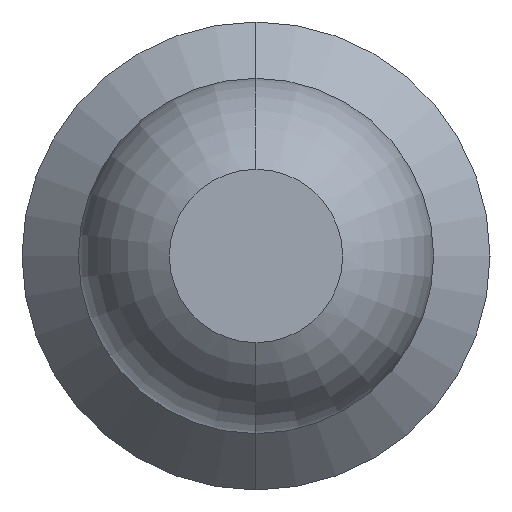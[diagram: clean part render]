
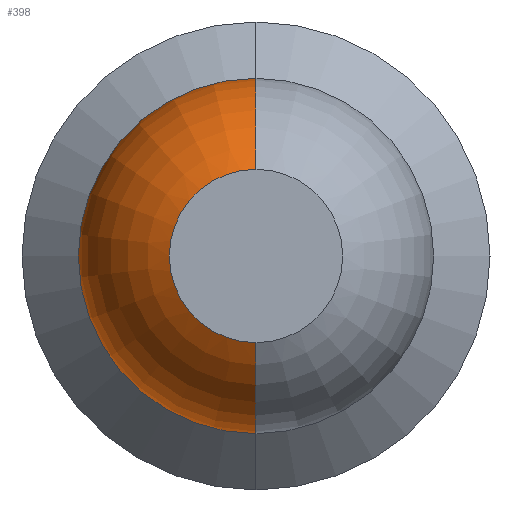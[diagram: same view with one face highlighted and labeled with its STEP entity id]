
A CAD part, left-side view. The second image highlights one B-rep face of the part: STEP entity #398.
In plain terms, the highlighted toroidal (fillet/blend) face has major radius 0.006 mm and minor radius 0.254 mm.
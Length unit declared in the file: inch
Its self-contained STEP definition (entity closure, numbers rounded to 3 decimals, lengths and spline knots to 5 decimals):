
#39 = CARTESIAN_POINT ( 'NONE',  ( 0.0088, 0., 0.00025 ) ) ;
#104 = DIRECTION ( 'NONE',  ( 0., 0., 1. ) ) ;
#132 = VERTEX_POINT ( 'NONE', #605 ) ;
#144 = DIRECTION ( 'NONE',  ( 0., 0., 1. ) ) ;
#182 = CARTESIAN_POINT ( 'NONE',  ( 0.0088, 0., -0.00025 ) ) ;
#220 = EDGE_CURVE ( 'NONE', #132, #297, #877, .T. ) ;
#264 = DIRECTION ( 'NONE',  ( 0., 0., 1. ) ) ;
#297 = VERTEX_POINT ( 'NONE', #839 ) ;
#313 = DIRECTION ( 'NONE',  ( 0., 0., 1. ) ) ;
#333 = CARTESIAN_POINT ( 'NONE',  ( 0.0088, 0., 0. ) ) ;
#371 = CARTESIAN_POINT ( 'NONE',  ( 0.0088, 0., 0.01025 ) ) ;
#385 = ORIENTED_EDGE ( 'NONE', *, *, #939, .F. ) ;
#388 = AXIS2_PLACEMENT_3D ( 'NONE', #752, #624, #313 ) ;
#398 = ADVANCED_FACE ( 'NONE', ( #544 ), #456, .T. ) ;
#450 = ORIENTED_EDGE ( 'NONE', *, *, #923, .T. ) ;
#454 = AXIS2_PLACEMENT_3D ( 'NONE', #39, #943, #578 ) ;
#456 = TOROIDAL_SURFACE ( 'NONE', #961, 0.00025, 0.01 ) ;
#505 = EDGE_LOOP ( 'NONE', ( #765, #450, #658, #385 ) ) ;
#544 = FACE_OUTER_BOUND ( 'NONE', #505, .T. ) ;
#578 = DIRECTION ( 'NONE',  ( 0., 0., -1. ) ) ;
#597 = CIRCLE ( 'NONE', #454, 0.01 ) ;
#601 = EDGE_CURVE ( 'NONE', #801, #638, #817, .T. ) ;
#605 = CARTESIAN_POINT ( 'NONE',  ( 0., 0., 0.005 ) ) ;
#624 = DIRECTION ( 'NONE',  ( -1., 0., 0. ) ) ;
#636 = DIRECTION ( 'NONE',  ( -1., 0., 0. ) ) ;
#638 = VERTEX_POINT ( 'NONE', #698 ) ;
#644 = AXIS2_PLACEMENT_3D ( 'NONE', #182, #864, #264 ) ;
#658 = ORIENTED_EDGE ( 'NONE', *, *, #220, .F. ) ;
#675 = CIRCLE ( 'NONE', #644, 0.01 ) ;
#698 = CARTESIAN_POINT ( 'NONE',  ( 0.0088, 0., -0.01025 ) ) ;
#752 = CARTESIAN_POINT ( 'NONE',  ( 0., 0., 0. ) ) ;
#765 = ORIENTED_EDGE ( 'NONE', *, *, #601, .T. ) ;
#791 = CARTESIAN_POINT ( 'NONE',  ( 0.0088, 0., 0. ) ) ;
#801 = VERTEX_POINT ( 'NONE', #371 ) ;
#817 = CIRCLE ( 'NONE', #898, 0.01025 ) ;
#839 = CARTESIAN_POINT ( 'NONE',  ( 0., 0., -0.005 ) ) ;
#864 = DIRECTION ( 'NONE',  ( 0., 1., 0. ) ) ;
#877 = CIRCLE ( 'NONE', #388, 0.005 ) ;
#895 = DIRECTION ( 'NONE',  ( -1., 0., 0. ) ) ;
#898 = AXIS2_PLACEMENT_3D ( 'NONE', #791, #895, #144 ) ;
#923 = EDGE_CURVE ( 'NONE', #638, #297, #675, .T. ) ;
#939 = EDGE_CURVE ( 'NONE', #801, #132, #597, .T. ) ;
#943 = DIRECTION ( 'NONE',  ( 0., -1., 0. ) ) ;
#961 = AXIS2_PLACEMENT_3D ( 'NONE', #333, #636, #104 ) ;
